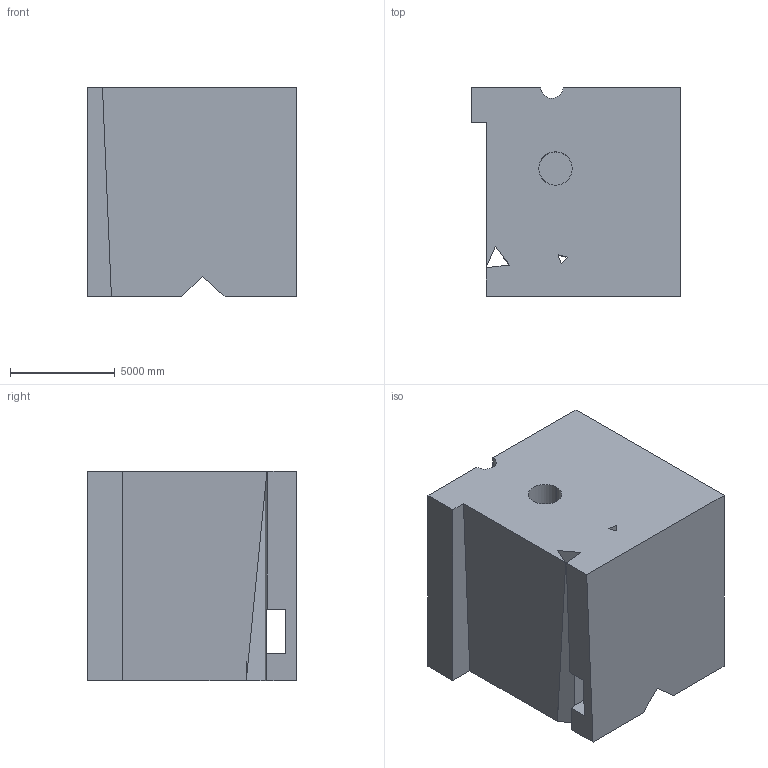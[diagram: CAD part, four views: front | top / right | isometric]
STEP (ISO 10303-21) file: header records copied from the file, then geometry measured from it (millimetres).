
FILE_DESCRIPTION (( 'STEP AP203' ), '1' );
FILE_NAME ('173.STEP', '2022-09-06T14:40:42', ( 'user' ), ( '' ), 'SwSTEP 2.0', 'SolidWorks 2021', '' );
FILE_SCHEMA (( 'CONFIG_CONTROL_DESIGN' ));
Length unit declared in the file: centimetre
Products named in the file (1): 173
Bounding box: 10000 x 10000 x 10000 mm (x, y, z)
Volume: 867751865444.8 mm3; surface area: 724786723.1 mm2
Topology: 1 solids, 1 shells, 30 faces, 89 edges, 59 vertices
Faces by surface type: plane 25, cylinder 5
Entity records: 1483 total; most frequent: CARTESIAN_POINT 583, ORIENTED_EDGE 178, DIRECTION 159, EDGE_CURVE 89, VECTOR 75, LINE 75, VERTEX_POINT 59, AXIS2_PLACEMENT_3D 42
